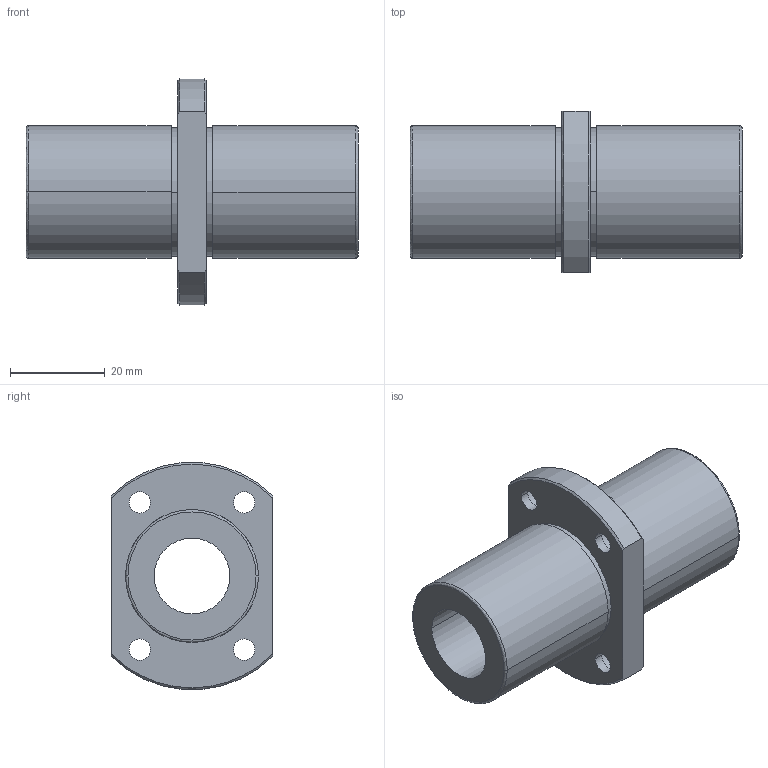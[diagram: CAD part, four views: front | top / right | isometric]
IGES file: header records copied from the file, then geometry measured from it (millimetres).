
Start section: 3D InterOp IGES (Version 21 0 1), Spatial Corp. Copyright (c) 1999-2007.
Global section: file name: NFCO-16VLUU.igs; native system: Spatial Corp.; preprocessor: 3D InterOp GENERIC/IGES 3.0; author: Noname; organization: Noname; date: 20220308.143455; units: millimetre
Bounding box: 70 x 34 x 47.82 mm (x, y, z)
Surface area: 13028.1 mm2 (no closed solid volume)
Topology: 0 solids, 0 shells, 48 faces, 224 edges, 224 vertices
Faces by surface type: revolution 36, extrusion 12
